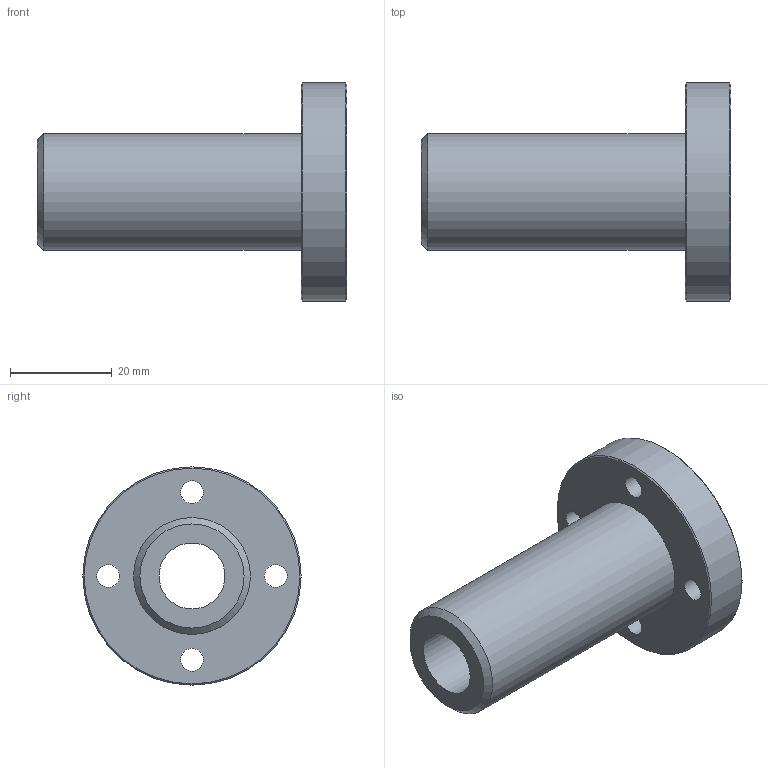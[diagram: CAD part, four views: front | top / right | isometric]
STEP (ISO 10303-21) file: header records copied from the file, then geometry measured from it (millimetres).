
FILE_DESCRIPTION(('STEP AP203'),'1');
FILE_NAME('//192.168.1.1/share/s-4 技術開発/s-4-4_CAD/s-4-4-3_見直し済み/PBC LINEAR修正済み/DFPJ/DFPJ_TOP/DFPJR/DFPJR13.step','2022-03-24T05:39:25',(' '),(' '),'Spatial InterOp 3D',' ',' ');
FILE_SCHEMA(('CONFIG_CONTROL_DESIGN'));
Length unit declared in the file: millimetre
Products named in the file (1): 1
Bounding box: 61 x 43 x 43 mm (x, y, z)
Volume: 25478.5 mm3; surface area: 10544.3 mm2
Topology: 1 solids, 1 shells, 21 faces, 44 edges, 30 vertices
Faces by surface type: cylinder 11, plane 7, cone 3
Full cylindrical faces by diameter (mm): 4.5 x4, 7.5 x4, 13 x1, 23 x1, 43 x1
Entity records: 528 total; most frequent: DIRECTION 94, CARTESIAN_POINT 72, EDGE_LOOP 50, ORIENTED_EDGE 50, AXIS2_PLACEMENT_3D 47, FACE_OUTER_BOUND 32, EDGE_CURVE 25, VERTEX_POINT 25
